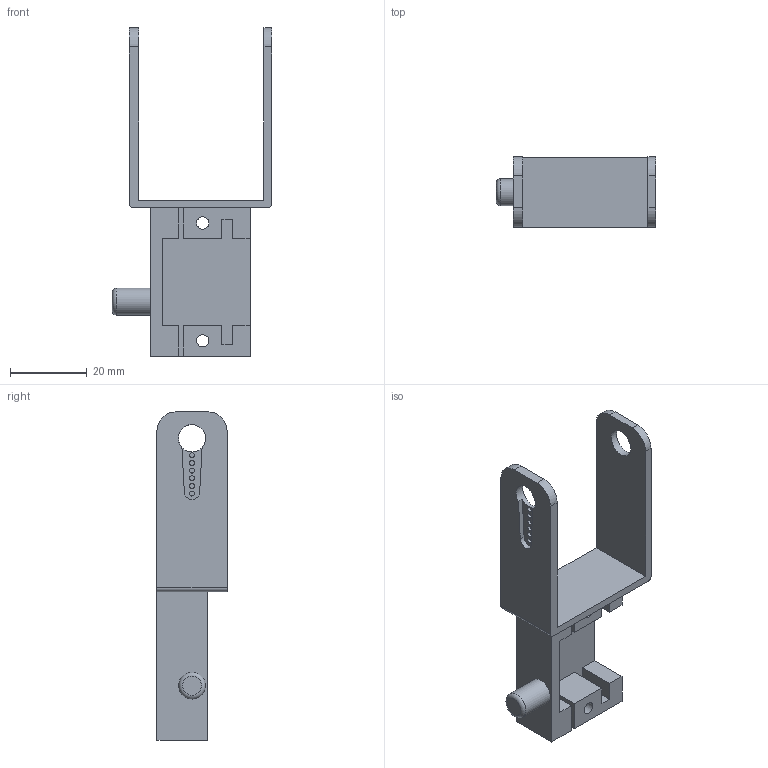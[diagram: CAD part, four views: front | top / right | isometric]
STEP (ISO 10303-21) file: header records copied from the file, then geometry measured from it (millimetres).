
FILE_DESCRIPTION(/* description */ (''),/* implementation_level */ '2;1');
FILE_NAME(/* name */ 'Elbow_v31.tmp.step',/* time_stamp */ '2026-11-01T13:09:53+02:00',/* author */ (''),/* organization */ (''),/* preprocessor_version */ 'ST-DEVELOPER v20.2',/* originating_system */ 'Autodesk Translation Framework v15.15.0.0',/* authorisation */ '');
FILE_SCHEMA (('AUTOMOTIVE_DESIGN { 1 0 10303 214 3 1 1 }'));
Length unit declared in the file: millimetre
Products named in the file (3): Elbow; New Servo Cage - Long; Knob
Assembly tree (2 placements, depth 2):
  Elbow
    New Servo Cage - Long
    Knob
Bounding box: 41.6 x 18.3 x 85.8 mm (x, y, z)
Volume: 12373.9 mm3; surface area: 10373.7 mm2
Topology: 3 solids, 3 shells, 60 faces, 162 edges, 108 vertices
Faces by surface type: plane 41, cylinder 18, torus 1
Full cylindrical faces by diameter (mm): 1.3 x6, 3.2 x2, 7 x1, 7.1 x1, 7.3 x1
Entity records: 2013 total; most frequent: CARTESIAN_POINT 335, DIRECTION 333, ORIENTED_EDGE 324, EDGE_CURVE 162, LINE 121, VECTOR 121, VERTEX_POINT 108, AXIS2_PLACEMENT_3D 106
